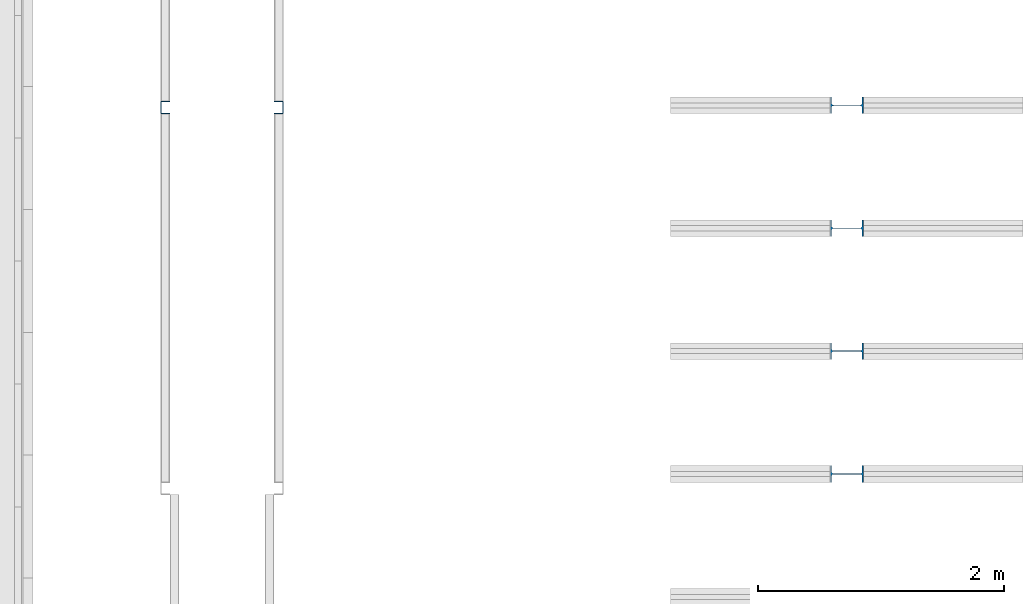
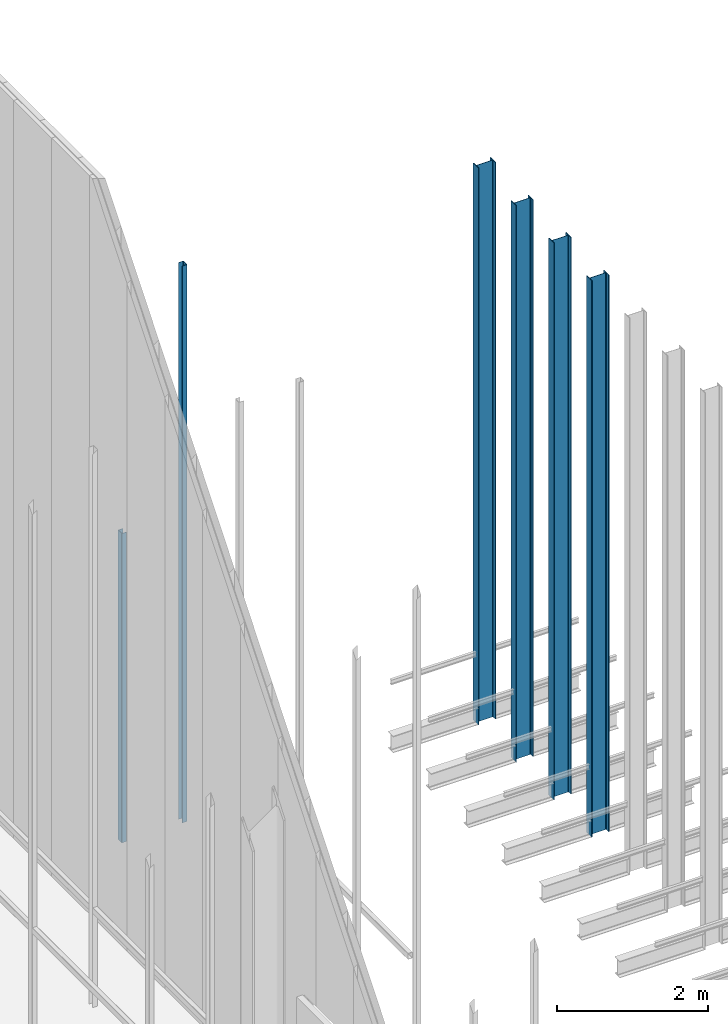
# One storey, part 58 of 302: 6 columns.
"""IFC2X3 building model written with IfcOpenShell, lengths in metres."""

from ifc_helpers import new_model, entity, si_unit, converted_unit, derived_unit, direction, frame, frame_2d, origin, place, context, subcontext, project, spatial, polyline, circle_curve, parameter, trimmed, segment, composite_curve, outline, extrude, source, transform, mapped, material, type_object, type_shapes, element, save


model = new_model("IFC2X3")

# Units and contexts
model_context = context("Model", 3, precision=1e-05, world=origin(), true_north=direction((6.12303176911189e-17, 1.0)))
body_context = subcontext(model_context, "Body", "Model", "MODEL_VIEW")
ifc_project = project(units=[si_unit("LENGTHUNIT", "METRE"), si_unit("AREAUNIT", "SQUARE_METRE"), si_unit("VOLUMEUNIT", "CUBIC_METRE"), converted_unit("PLANEANGLEUNIT", "DEGREE", entity("IfcRatioMeasure", 0.0174532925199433), si_unit("PLANEANGLEUNIT", "RADIAN"), dimensions=[0, 0, 0, 0, 0, 0, 0]), si_unit("MASSUNIT", "GRAM", prefix="KILO"), derived_unit("MASSDENSITYUNIT", [(si_unit("MASSUNIT", "GRAM", prefix="KILO"), 1), (si_unit("LENGTHUNIT", "METRE"), -3)]), derived_unit("MOMENTOFINERTIAUNIT", [(si_unit("LENGTHUNIT", "METRE"), 4)]), si_unit("TIMEUNIT", "SECOND"), si_unit("FREQUENCYUNIT", "HERTZ"), si_unit("THERMODYNAMICTEMPERATUREUNIT", "DEGREE_CELSIUS"), derived_unit("THERMALTRANSMITTANCEUNIT", [(si_unit("MASSUNIT", "GRAM", prefix="KILO"), 1), (si_unit("THERMODYNAMICTEMPERATUREUNIT", "KELVIN"), -1), (si_unit("TIMEUNIT", "SECOND"), -3)]), derived_unit("VOLUMETRICFLOWRATEUNIT", [(si_unit("LENGTHUNIT", "METRE"), 3), (si_unit("TIMEUNIT", "SECOND"), -1)]), si_unit("ELECTRICCURRENTUNIT", "AMPERE"), si_unit("ELECTRICVOLTAGEUNIT", "VOLT"), si_unit("POWERUNIT", "WATT"), si_unit("FORCEUNIT", "NEWTON", prefix="KILO"), si_unit("ILLUMINANCEUNIT", "LUX"), si_unit("LUMINOUSFLUXUNIT", "LUMEN"), si_unit("LUMINOUSINTENSITYUNIT", "CANDELA"), derived_unit("USERDEFINED", [(si_unit("MASSUNIT", "GRAM", prefix="KILO"), -1), (si_unit("LENGTHUNIT", "METRE"), -2), (si_unit("TIMEUNIT", "SECOND"), 3), (si_unit("LUMINOUSFLUXUNIT", "LUMEN"), 1)]), derived_unit("LINEARVELOCITYUNIT", [(si_unit("LENGTHUNIT", "METRE"), 1), (si_unit("TIMEUNIT", "SECOND"), -1)]), si_unit("PRESSUREUNIT", "PASCAL"), derived_unit("USERDEFINED", [(si_unit("LENGTHUNIT", "METRE"), -2), (si_unit("MASSUNIT", "GRAM", prefix="KILO"), 1), (si_unit("TIMEUNIT", "SECOND"), -2)]), derived_unit("LINEARFORCEUNIT", [(si_unit("MASSUNIT", "GRAM", prefix="KILO"), 1), (si_unit("LENGTHUNIT", "METRE"), 1), (si_unit("TIMEUNIT", "SECOND"), -2), (si_unit("LENGTHUNIT", "METRE"), -1)]), derived_unit("PLANARFORCEUNIT", [(si_unit("MASSUNIT", "GRAM", prefix="KILO"), 1), (si_unit("LENGTHUNIT", "METRE"), 1), (si_unit("TIMEUNIT", "SECOND"), -2), (si_unit("LENGTHUNIT", "METRE"), -2)])], contexts=[model_context])

# Site, building, storey
site_placement = place(None, origin())
site = spatial("IfcSite", under=ifc_project, at=site_placement, Name="Default", CompositionType="ELEMENT")
building_placement = place(site_placement, origin())
building = spatial("IfcBuilding", under=site, at=building_placement, CompositionType="ELEMENT")
storey_placement = place(building_placement, frame((0.0, 0.0, -1.3)))
storey = spatial("IfcBuildingStorey", under=building, at=storey_placement, Name="00_EG", CompositionType="ELEMENT", Elevation=-1.3)

# Columns
ifc_material = material(Name="Metall - Baustahl S235")
column_type_1 = type_object("IfcColumnType", Name="Leichter Stahl Schlossschrauben Stütze:C 100", PredefinedType="COLUMN", material=ifc_material)
shared_shape_1 = source(origin(), body_context, "Body", "SweptSolid", [
    extrude(outline(composite_curve([segment(polyline([(-0.0214500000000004, -0.0499999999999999), (0.0469749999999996, -0.0499999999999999)]), True, "CONTINUOUS"), segment(polyline([(0.0469749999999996, -0.0499999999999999), (0.0469749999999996, -0.0449999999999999)]), True, "CONTINUOUS"), segment(polyline([(0.0469749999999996, -0.0449999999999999), (-0.0214500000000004, -0.045)]), True, "CONTINUOUS"), segment(trimmed(circle_curve(frame_2d((-0.0214500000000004, -0.043425), x_axis=(0.0, -1.0)), 0.00157500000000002), [parameter(270.0)], [parameter(0.0)], True, "PARAMETER"), False, "CONTINUOUS"), segment(polyline([(-0.0230250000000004, -0.0434249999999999), (-0.0230250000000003, 0.0434249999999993)]), True, "CONTINUOUS"), segment(trimmed(circle_curve(frame_2d((-0.0214500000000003, 0.0434249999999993), x_axis=(-1.0, 0.0)), 0.00157500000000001), [parameter(269.999999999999)], [parameter(0.0)], True, "PARAMETER"), False, "CONTINUOUS"), segment(polyline([(-0.0214500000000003, 0.0450000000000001), (0.0469750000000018, 0.0450000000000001)]), True, "CONTINUOUS"), segment(polyline([(0.0469750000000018, 0.0450000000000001), (0.0469750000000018, 0.0500000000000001)]), True, "CONTINUOUS"), segment(polyline([(0.0469750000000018, 0.0500000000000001), (-0.0214500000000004, 0.0500000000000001)]), True, "CONTINUOUS"), segment(trimmed(circle_curve(frame_2d((-0.0214500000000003, 0.043425), x_axis=(0.0, 1.0)), 0.0065750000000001), [parameter(0.0)], [parameter(89.9999999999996)], True, "PARAMETER"), True, "CONTINUOUS"), segment(polyline([(-0.0280250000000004, 0.043425), (-0.0280250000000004, -0.043425)]), True, "CONTINUOUS"), segment(trimmed(circle_curve(frame_2d((-0.0214500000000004, -0.0434249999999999), x_axis=(-1.0, 0.0)), 0.00657500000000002), [parameter(0.0)], [parameter(89.9999999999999)], True, "PARAMETER"), True, "CONTINUOUS")], self_intersect=False)), frame((0.0499999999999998, -0.0280250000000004, -0.0300000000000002), z_axis=(0.0, 0.0, 1.0), x_axis=(0.0, -1.0, 0.0)), (0.0, 0.0, 1.0), 9.0),
])
type_shapes(column_type_1, [shared_shape_1])
column_1_placement = place(storey_placement, frame((-175.230111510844, 55.048088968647, 1.3), z_axis=(0.0, 0.0, 1.0), x_axis=(0.0, -1.0, 0.0)))
element("IfcColumn", 1, at=column_1_placement, inside=storey, type_object=column_type_1, material=ifc_material, Name="Leichter Stahl Schlossschrauben Stütze:C 100", ObjectType="Leichter Stahl Schlossschrauben Stütze:C 100", context=body_context, shape_type="MappedRepresentation", body=[
    mapped(shared_shape_1, transform((0.0, 0.0, 0.0), scale=1.0)),
])
column_type_2 = type_object("IfcColumnType", Name="Leichter Stahl Schlossschrauben Stütze:C 100", PredefinedType="COLUMN", material=ifc_material)
shared_shape_2 = source(origin(), body_context, "Body", "SweptSolid", [
    extrude(outline(composite_curve([segment(polyline([(-0.0469749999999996, -0.0499999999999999), (0.0214500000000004, -0.0499999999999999)]), True, "CONTINUOUS"), segment(trimmed(circle_curve(frame_2d((0.0214500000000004, -0.0434249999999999), x_axis=(0.0, -1.0)), 0.00657500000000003), [parameter(0.0)], [parameter(89.9999999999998)], True, "PARAMETER"), True, "CONTINUOUS"), segment(polyline([(0.0280250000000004, -0.0434249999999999), (0.0280250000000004, 0.0434250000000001)]), True, "CONTINUOUS"), segment(trimmed(circle_curve(frame_2d((0.0214500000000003, 0.0434250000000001), x_axis=(1.0, 0.0)), 0.0065750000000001), [parameter(0.0)], [parameter(89.9999999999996)], True, "PARAMETER"), True, "CONTINUOUS"), segment(polyline([(0.0214500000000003, 0.0500000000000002), (-0.0469750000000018, 0.0500000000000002)]), True, "CONTINUOUS"), segment(polyline([(-0.0469750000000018, 0.0500000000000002), (-0.0469750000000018, 0.0450000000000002)]), True, "CONTINUOUS"), segment(polyline([(-0.0469750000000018, 0.0450000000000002), (0.0214500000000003, 0.0450000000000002)]), True, "CONTINUOUS"), segment(trimmed(circle_curve(frame_2d((0.0214500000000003, 0.0434249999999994), x_axis=(0.0, 1.0)), 0.00157500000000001), [parameter(269.999999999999)], [parameter(0.0)], True, "PARAMETER"), False, "CONTINUOUS"), segment(polyline([(0.0230250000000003, 0.0434249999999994), (0.0230250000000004, -0.0434249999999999)]), True, "CONTINUOUS"), segment(trimmed(circle_curve(frame_2d((0.0214500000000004, -0.0434249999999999), x_axis=(1.0, 0.0)), 0.00157500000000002), [parameter(270.0)], [parameter(0.0)], True, "PARAMETER"), False, "CONTINUOUS"), segment(polyline([(0.0214500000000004, -0.0449999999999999), (-0.0469749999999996, -0.0449999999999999)]), True, "CONTINUOUS"), segment(polyline([(-0.0469749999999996, -0.0449999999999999), (-0.0469749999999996, -0.0499999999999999)]), True, "CONTINUOUS")], self_intersect=False)), frame((0.0499999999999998, 0.0280250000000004, -0.0300000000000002), z_axis=(0.0, 0.0, 1.0), x_axis=(0.0, -1.0, 0.0)), (0.0, 0.0, 1.0), 5.0),
])
type_shapes(column_type_2, [shared_shape_2])
column_2_placement = place(storey_placement, frame((-176.230111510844, 55.048088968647, 1.3), z_axis=(0.0, 0.0, 1.0), x_axis=(0.0, -1.0, 0.0)))
element("IfcColumn", 2, at=column_2_placement, inside=storey, type_object=column_type_2, material=ifc_material, Name="Leichter Stahl Schlossschrauben Stütze:C 100", ObjectType="Leichter Stahl Schlossschrauben Stütze:C 100", context=body_context, shape_type="MappedRepresentation", body=[
    mapped(shared_shape_2, transform((0.0, 0.0, 0.0), scale=1.0)),
])
column_type_3 = type_object("IfcColumnType", Name="IPE Stütze:IPE 270", PredefinedType="COLUMN", material=ifc_material)
shared_shape_3 = source(origin(), body_context, "Body", "SweptSolid", [
    extrude(outline(composite_curve([segment(polyline([(0.1248, -0.0675), (0.135, -0.0675)]), True, "CONTINUOUS"), segment(polyline([(0.135, -0.0675), (0.135, 0.0675)]), True, "CONTINUOUS"), segment(polyline([(0.135, 0.0675), (0.1248, 0.0675)]), True, "CONTINUOUS"), segment(polyline([(0.1248, 0.0675), (0.1248, 0.0183)]), True, "CONTINUOUS"), segment(trimmed(circle_curve(frame_2d((0.1098, 0.0183), x_axis=(1.0, 0.0)), 0.015), [parameter(270.0)], [parameter(0.0)], True, "PARAMETER"), False, "CONTINUOUS"), segment(polyline([(0.1098, 0.0033), (-0.1098, 0.0033)]), True, "CONTINUOUS"), segment(trimmed(circle_curve(frame_2d((-0.1098, 0.0183), x_axis=(0.0, -1.0)), 0.015), [parameter(270.0)], [parameter(0.0)], True, "PARAMETER"), False, "CONTINUOUS"), segment(polyline([(-0.1248, 0.0183), (-0.1248, 0.0675)]), True, "CONTINUOUS"), segment(polyline([(-0.1248, 0.0675), (-0.135, 0.0675)]), True, "CONTINUOUS"), segment(polyline([(-0.135, 0.0675), (-0.135, -0.0675)]), True, "CONTINUOUS"), segment(polyline([(-0.135, -0.0675), (-0.1248, -0.0675)]), True, "CONTINUOUS"), segment(polyline([(-0.1248, -0.0675), (-0.1248, -0.0183)]), True, "CONTINUOUS"), segment(trimmed(circle_curve(frame_2d((-0.1098, -0.0183), x_axis=(-1.0, 0.0)), 0.015), [parameter(269.999999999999)], [parameter(0.0)], True, "PARAMETER"), False, "CONTINUOUS"), segment(polyline([(-0.1098, -0.0033), (0.1098, -0.0033)]), True, "CONTINUOUS"), segment(trimmed(circle_curve(frame_2d((0.1098, -0.0183), x_axis=(0.0, 1.0)), 0.015), [parameter(270.0)], [parameter(0.0)], True, "PARAMETER"), False, "CONTINUOUS"), segment(polyline([(0.1248, -0.0183), (0.1248, -0.0675)]), True, "CONTINUOUS")], self_intersect=False)), frame((0.0, 0.0, -0.0300000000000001), z_axis=(0.0, 0.0, 1.0), x_axis=(0.0, -1.0, 0.0)), (0.0, 0.0, 1.0), 9.0),
])
type_shapes(column_type_3, [shared_shape_3])
for number, where, z_axis, x_axis in (
    (3, (-170.645111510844, 55.0155889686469, 1.3), (0.0, 0.0, 1.0), (0.0, 1.0, 0.0)),
    (4, (-170.645111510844, 54.0155889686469, 1.3), (0.0, 0.0, 1.0), (0.0, 1.0, 0.0)),
    (5, (-170.645111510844, 53.0155889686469, 1.3), (0.0, 0.0, 1.0), (0.0, 1.0, 0.0)),
    (6, (-170.645111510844, 52.0155889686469, 1.3), (0.0, 0.0, 1.0), (0.0, 1.0, 0.0)),
):
    element("IfcColumn", number, at=place(storey_placement, frame(where, z_axis=z_axis, x_axis=x_axis)), inside=storey, type_object=column_type_3, material=ifc_material, Name="IPE Stütze:IPE 270", ObjectType="IPE Stütze:IPE 270", context=body_context, shape_type="MappedRepresentation", body=[
        mapped(shared_shape_3, transform((0.0, 0.0, 0.0), scale=1.0)),
    ])

save(model, "model.ifc")
